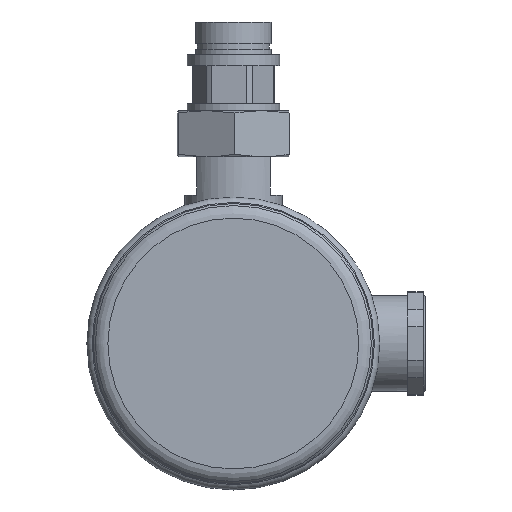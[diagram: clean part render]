
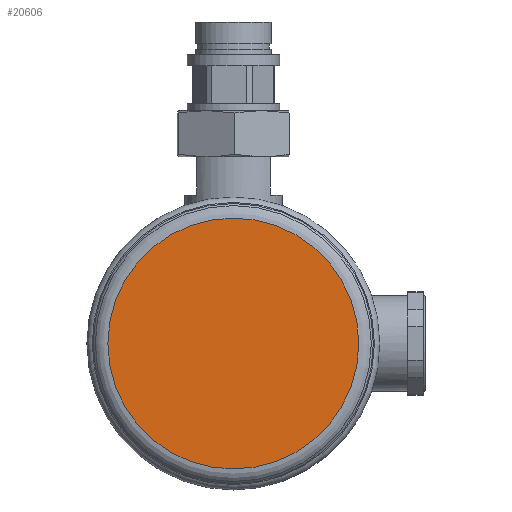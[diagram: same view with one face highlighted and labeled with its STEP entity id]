
A CAD part, front view. The second image highlights one B-rep face of the part: STEP entity #20606.
In plain terms, the highlighted planar face has unit normal (0, -1, 0).
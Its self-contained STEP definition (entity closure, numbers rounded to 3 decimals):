
#468=PLANE('',#21811);
#1357=CIRCLE('',#21812,46.035);
#5788=FACE_OUTER_BOUND('',#7055,.T.);
#7055=EDGE_LOOP('',(#15201));
#10010=VERTEX_POINT('',#29384);
#12094=EDGE_CURVE('',#10010,#10010,#1357,.T.);
#15201=ORIENTED_EDGE('',*,*,#12094,.T.);
#20606=ADVANCED_FACE('',(#5788),#468,.T.);
#21811=AXIS2_PLACEMENT_3D('',#29383,#23262,#23263);
#21812=AXIS2_PLACEMENT_3D('',#29385,#23264,#23265);
#23262=DIRECTION('center_axis',(0.,-1.,0.));
#23263=DIRECTION('ref_axis',(0.,0.,-1.));
#23264=DIRECTION('center_axis',(0.,-1.,0.));
#23265=DIRECTION('ref_axis',(-1.,0.,0.));
#29383=CARTESIAN_POINT('Origin',(26.984,-6.105,0.));
#29384=CARTESIAN_POINT('',(3.967,-6.105,0.));
#29385=CARTESIAN_POINT('Origin',(50.002,-6.105,0.));
